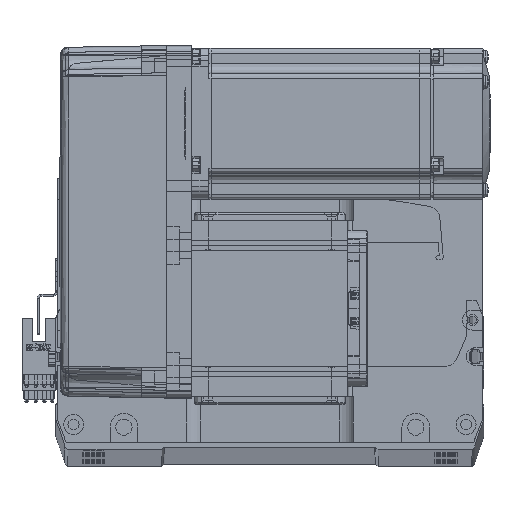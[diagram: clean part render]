
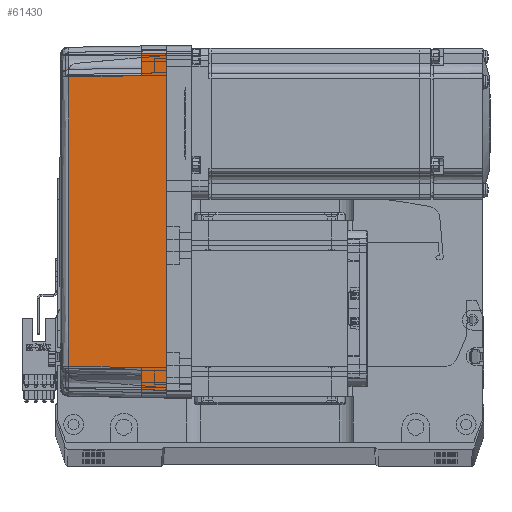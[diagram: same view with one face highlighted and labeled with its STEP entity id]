
A CAD part, top view. The second image highlights one B-rep face of the part: STEP entity #61430.
In plain terms, the highlighted planar face has unit normal (-0.018, 0, 1) as drawn and (0, 1, 0.017) by its records, which use the part's own axes.
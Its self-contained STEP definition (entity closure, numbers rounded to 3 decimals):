
#943 = VECTOR ( 'NONE', #20907, 1000. ) ;
#2154 = DIRECTION ( 'NONE',  ( 0., 1., 0.017 ) ) ;
#2649 = PLANE ( 'NONE',  #42631 ) ;
#3311 = LINE ( 'NONE', #42538, #66813 ) ;
#4097 = DIRECTION ( 'NONE',  ( 1., 0., 0. ) ) ;
#11599 = ORIENTED_EDGE ( 'NONE', *, *, #31845, .F. ) ;
#12488 = CARTESIAN_POINT ( 'NONE',  ( 66.826, 35.825, 10. ) ) ;
#12845 = LINE ( 'NONE', #41142, #51320 ) ;
#13079 = EDGE_LOOP ( 'NONE', ( #45538, #17087, #64228, #54765, #61547, #28868, #11599, #37070 ) ) ;
#14611 = LINE ( 'NONE', #14945, #72677 ) ;
#14945 = CARTESIAN_POINT ( 'NONE',  ( 57.495, 35.32, 38.985 ) ) ;
#17087 = ORIENTED_EDGE ( 'NONE', *, *, #40080, .T. ) ;
#18463 = EDGE_CURVE ( 'NONE', #54076, #28991, #40667, .T. ) ;
#19625 = CARTESIAN_POINT ( 'NONE',  ( 58., 35.825, 10. ) ) ;
#19743 = DIRECTION ( 'NONE',  ( 0.017, 0.017, -1. ) ) ;
#20907 = DIRECTION ( 'NONE',  ( 0.017, -0.017, 1. ) ) ;
#21564 = CARTESIAN_POINT ( 'NONE',  ( -67., 36., 0. ) ) ;
#25374 = VERTEX_POINT ( 'NONE', #68271 ) ;
#26023 = CARTESIAN_POINT ( 'NONE',  ( -58., 35.825, 10. ) ) ;
#28358 = CARTESIAN_POINT ( 'NONE',  ( 67., 36., 0. ) ) ;
#28868 = ORIENTED_EDGE ( 'NONE', *, *, #18463, .T. ) ;
#28991 = VERTEX_POINT ( 'NONE', #12488 ) ;
#31845 = EDGE_CURVE ( 'NONE', #44116, #28991, #70853, .T. ) ;
#32575 = DIRECTION ( 'NONE',  ( -0.017, -0.017, 1. ) ) ;
#34312 = VECTOR ( 'NONE', #32575, 1000. ) ;
#36464 = CARTESIAN_POINT ( 'NONE',  ( 70., 36., 0. ) ) ;
#37038 = DIRECTION ( 'NONE',  ( 1., 0., 0. ) ) ;
#37070 = ORIENTED_EDGE ( 'NONE', *, *, #42139, .F. ) ;
#38501 = LINE ( 'NONE', #73000, #43864 ) ;
#40080 = EDGE_CURVE ( 'NONE', #25374, #54491, #38501, .T. ) ;
#40400 = CARTESIAN_POINT ( 'NONE',  ( 57.495, 35.32, 38.985 ) ) ;
#40667 = LINE ( 'NONE', #49654, #70961 ) ;
#40763 = VERTEX_POINT ( 'NONE', #49214 ) ;
#41142 = CARTESIAN_POINT ( 'NONE',  ( -67., 36., 0. ) ) ;
#42139 = EDGE_CURVE ( 'NONE', #53082, #44116, #3311, .T. ) ;
#42538 = CARTESIAN_POINT ( 'NONE',  ( 0., 36., 0. ) ) ;
#42631 = AXIS2_PLACEMENT_3D ( 'NONE', #36464, #2154, #59640 ) ;
#43864 = VECTOR ( 'NONE', #4097, 1000. ) ;
#43961 = EDGE_CURVE ( 'NONE', #40763, #54076, #14611, .T. ) ;
#44116 = VERTEX_POINT ( 'NONE', #28358 ) ;
#44646 = DIRECTION ( 'NONE',  ( 1., 0., 0. ) ) ;
#45538 = ORIENTED_EDGE ( 'NONE', *, *, #66003, .T. ) ;
#46898 = DIRECTION ( 'NONE',  ( 0.017, -0.017, 1. ) ) ;
#48433 = LINE ( 'NONE', #72028, #943 ) ;
#49214 = CARTESIAN_POINT ( 'NONE',  ( 57.495, 35.32, 38.985 ) ) ;
#49319 = CARTESIAN_POINT ( 'NONE',  ( -57.495, 35.32, 38.985 ) ) ;
#49654 = CARTESIAN_POINT ( 'NONE',  ( 70., 35.825, 10. ) ) ;
#51320 = VECTOR ( 'NONE', #46898, 1000. ) ;
#53030 = VERTEX_POINT ( 'NONE', #49319 ) ;
#53082 = VERTEX_POINT ( 'NONE', #21564 ) ;
#54076 = VERTEX_POINT ( 'NONE', #19625 ) ;
#54491 = VERTEX_POINT ( 'NONE', #26023 ) ;
#54765 = ORIENTED_EDGE ( 'NONE', *, *, #65998, .T. ) ;
#55770 = CARTESIAN_POINT ( 'NONE',  ( 67.001, 36.001, -0.052 ) ) ;
#55922 = EDGE_CURVE ( 'NONE', #54491, #53030, #48433, .T. ) ;
#59640 = DIRECTION ( 'NONE',  ( 0., -0.017, 1. ) ) ;
#61430 = ADVANCED_FACE ( 'NONE', ( #69937 ), #2649, .T. ) ;
#61547 = ORIENTED_EDGE ( 'NONE', *, *, #43961, .T. ) ;
#64083 = CARTESIAN_POINT ( 'NONE',  ( -57.495, 35.32, 38.985 ) ) ;
#64228 = ORIENTED_EDGE ( 'NONE', *, *, #55922, .T. ) ;
#64324 = CARTESIAN_POINT ( 'NONE',  ( 19.165, 35.316, 39.181 ) ) ;
#65445 = B_SPLINE_CURVE_WITH_KNOTS ( 'NONE', 3,
 ( #64083, #69780, #64324, #40400 ),
 .UNSPECIFIED., .F., .F.,
 ( 4, 4 ),
 ( 0., 1. ),
 .UNSPECIFIED. ) ;
#65998 = EDGE_CURVE ( 'NONE', #53030, #40763, #65445, .T. ) ;
#66003 = EDGE_CURVE ( 'NONE', #53082, #25374, #12845, .T. ) ;
#66813 = VECTOR ( 'NONE', #37038, 1000. ) ;
#68271 = CARTESIAN_POINT ( 'NONE',  ( -66.826, 35.825, 10. ) ) ;
#69780 = CARTESIAN_POINT ( 'NONE',  ( -19.165, 35.316, 39.181 ) ) ;
#69937 = FACE_OUTER_BOUND ( 'NONE', #13079, .T. ) ;
#70853 = LINE ( 'NONE', #55770, #34312 ) ;
#70961 = VECTOR ( 'NONE', #44646, 1000. ) ;
#72028 = CARTESIAN_POINT ( 'NONE',  ( -58., 35.825, 10. ) ) ;
#72677 = VECTOR ( 'NONE', #19743, 1000. ) ;
#73000 = CARTESIAN_POINT ( 'NONE',  ( 70., 35.825, 10. ) ) ;
